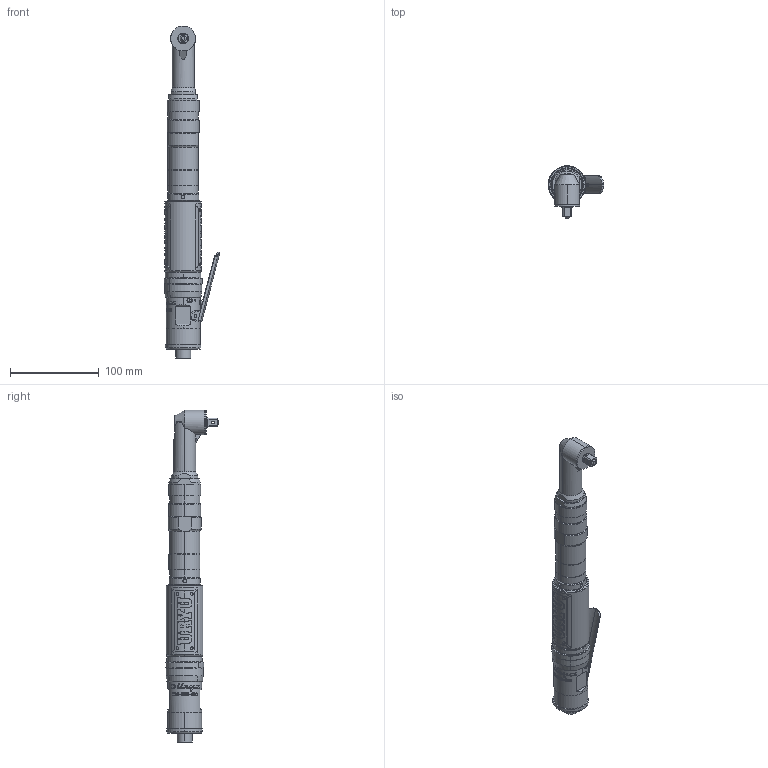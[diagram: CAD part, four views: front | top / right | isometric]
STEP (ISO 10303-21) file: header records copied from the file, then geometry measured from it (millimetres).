
FILE_DESCRIPTION (( 'STEP AP203' ), '1' );
FILE_NAME ('UAN-611R-40C.STEP', '2007-10-26T06:18:19', ( 'gikai-nt16' ), ( ' ' ), 'SwSTEP 2.0', 'SolidWorks 2003240', '' );
FILE_SCHEMA (( 'CONFIG_CONTROL_DESIGN' ));
Length unit declared in the file: millimetre
Products named in the file (11): 2684416_蹬怮椔; 2597806_UAN-611R-30C_蹬怮椔; 1961077_UAN-611R-30C_蹬怮椔; UAN-611R-40C; 2583195_UAN-611R-30C_蹬怮椔; 2683696_UAN-611R-30C_蹬怮椔; 4630298_UAN-611R-30C_蹬怮椔; 2680257_UAN-611R-30C_蹬怮椔; 2591140_UAN-611R-30C_蹬怮椔; 2688406_UAN-611R-30C_蹬怮椔; 2682126_UAN-611R-30C_蹬怮椔
Assembly tree (10 placements, depth 2):
  UAN-611R-40C
    2682126_UAN-611R-30C_蹬怮椔
    2688406_UAN-611R-30C_蹬怮椔
    2683696_UAN-611R-30C_蹬怮椔
    2591140_UAN-611R-30C_蹬怮椔
    2680257_UAN-611R-30C_蹬怮椔
    2684416_蹬怮椔
    1961077_UAN-611R-30C_蹬怮椔
    4630298_UAN-611R-30C_蹬怮椔
    2583195_UAN-611R-30C_蹬怮椔
    2597806_UAN-611R-30C_蹬怮椔
Bounding box: 62.79 x 59.42 x 373.2 mm (x, y, z)
Volume: 372396.8 mm3; surface area: 85788.6 mm2
Topology: 10 solids, 10 shells, 925 faces, 2411 edges, 1584 vertices
Faces by surface type: plane 449, cylinder 340, bspline 83, cone 43, torus 8, sphere 2
Entity records: 37488 total; most frequent: CARTESIAN_POINT 14746, ORIENTED_EDGE 4818, DIRECTION 4068, EDGE_CURVE 2409, VERTEX_POINT 1584, AXIS2_PLACEMENT_3D 1485, LINE 1098, VECTOR 1098
